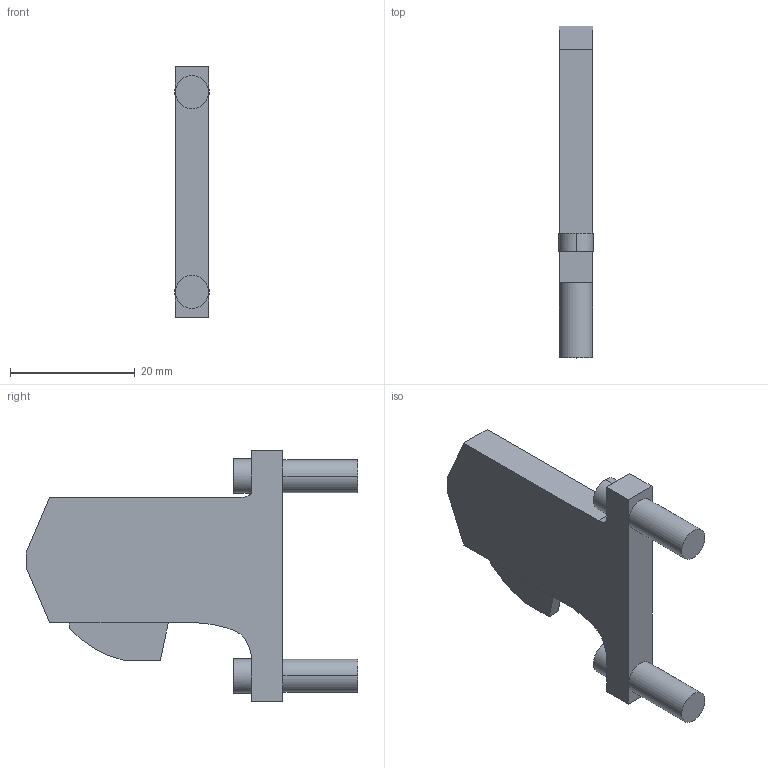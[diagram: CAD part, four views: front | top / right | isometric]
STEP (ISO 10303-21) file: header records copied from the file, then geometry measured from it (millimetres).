
FILE_DESCRIPTION (( 'STEP AP203' ), '1' );
FILE_NAME ('Montiert R.step', '2022-01-13T12:37:46', ( '' ), ( '' ), 'SwSTEP 2.0', 'SolidWorks 2021', '' );
FILE_SCHEMA (( 'CONFIG_CONTROL_DESIGN' ));
Length unit declared in the file: millimetre
Products named in the file (1): Montiert R
Bounding box: 5.5 x 53.13 x 40.1 mm (x, y, z)
Volume: 5586.9 mm3; surface area: 3275.6 mm2
Topology: 1 solids, 1 shells, 41 faces, 98 edges, 60 vertices
Faces by surface type: plane 30, cylinder 9, bspline 2
Entity records: 1289 total; most frequent: CARTESIAN_POINT 260, DIRECTION 198, ORIENTED_EDGE 196, EDGE_CURVE 98, AXIS2_PLACEMENT_3D 66, VECTOR 66, LINE 66, VERTEX_POINT 60
